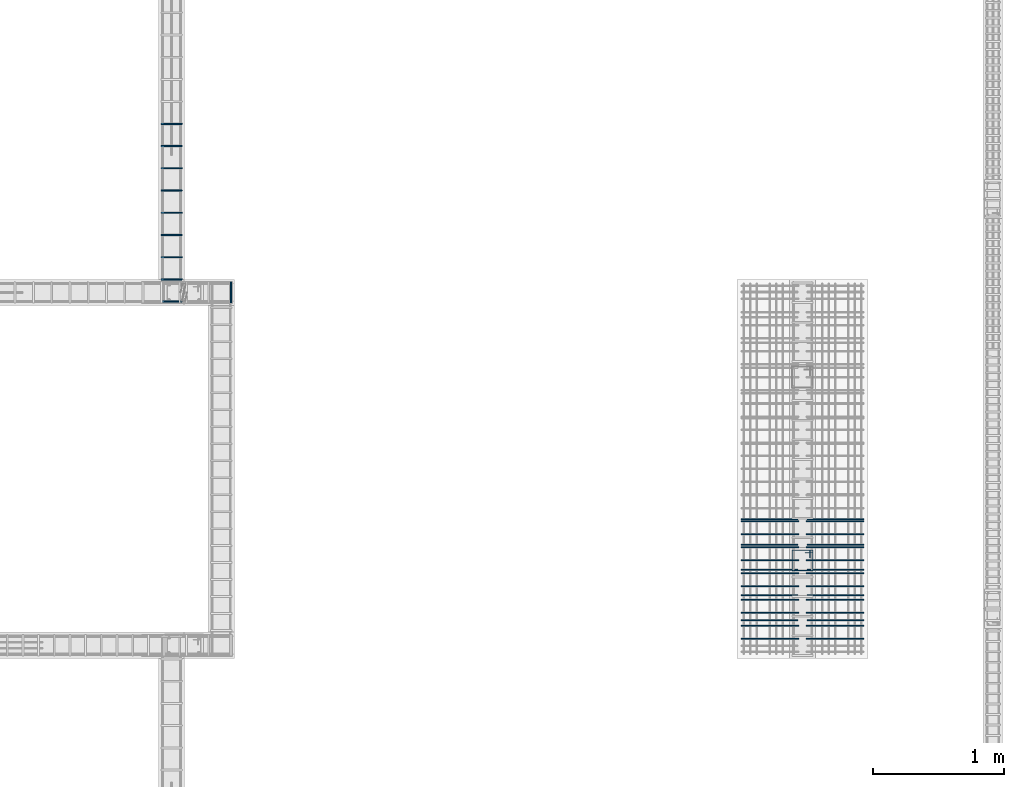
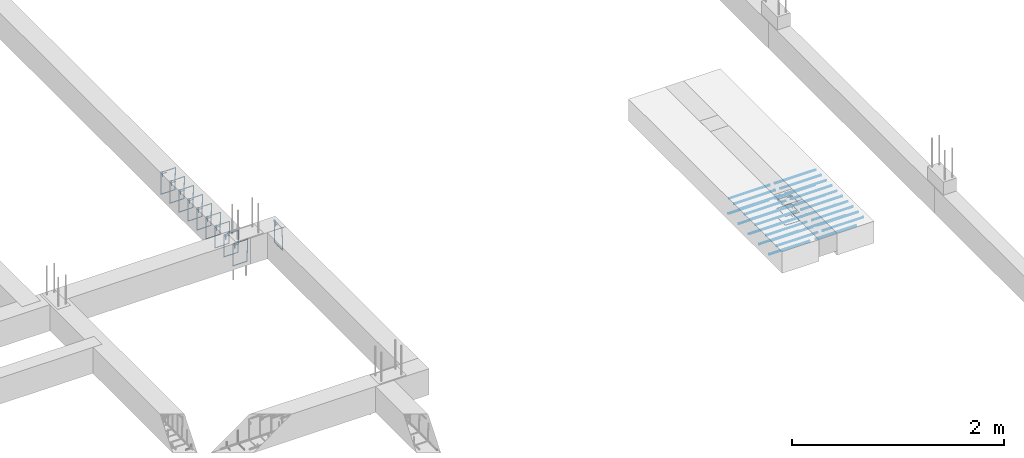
# One storey, part 142 of 150: 43 reinforcing bars.
"""IFC4 building model written with IfcOpenShell, lengths in centimetres."""

from ifc_helpers import new_model, entity, si_unit, derived_unit, frame, origin_with_axes, place, context, project, spatial, source, transform, mapped, element, save


model = new_model("IFC4")

# Units and contexts
model_context = context("Model", 3, precision=1e-05, world=origin_with_axes(), identifier="Body")
ifc_project = project(units=[si_unit("LENGTHUNIT", "METRE", prefix="CENTI"), si_unit("VOLUMEUNIT", "CUBIC_METRE"), si_unit("AREAUNIT", "SQUARE_METRE"), si_unit("POWERUNIT", "WATT"), si_unit("LUMINOUSFLUXUNIT", "LUMEN"), si_unit("ELECTRICCURRENTUNIT", "AMPERE"), si_unit("PRESSUREUNIT", "PASCAL", prefix="KILO"), si_unit("MASSUNIT", "GRAM", prefix="KILO"), si_unit("PLANEANGLEUNIT", "RADIAN"), derived_unit("VOLUMETRICFLOWRATEUNIT", [(si_unit("LENGTHUNIT", "METRE"), 3), (si_unit("TIMEUNIT", "SECOND"), -1)])], contexts=[model_context])

# Site, building, storey
site_placement = place(None, frame((-4000.0, 0.0, 0.0), z_axis=(0.0, 0.0, 1.0), x_axis=(1.0, 0.0, 0.0)))
site = spatial("IfcSite", under=ifc_project, at=site_placement, Name="PADRÃO")
building_placement = place(site_placement, frame((0.0, 0.0, -14.0)))
building = spatial("IfcBuilding", under=site, at=building_placement, Name="CRECHE PRÉ-ESCOLA TIPO 2")
placement = place(building_placement, origin_with_axes())
storey_placement = place(placement, frame((0.0, 0.0, 30.0), z_axis=(0.0, 0.0, 1.0), x_axis=(1.0, 0.0, 0.0)))
storey = spatial("IfcBuildingStorey", under=building, at=storey_placement, Name="VIGA BALDRAME", CompositionType="ELEMENT", Elevation=16.0)

# Reinforcing bars
shared_shape_1 = source(origin_with_axes(), model_context, "Body", "AdvancedSweptSolid", [
    entity("IfcSweptDiskSolid", entity("IfcCompositeCurve", [entity("IfcCompositeCurveSegment", "CONTINUOUS", True, entity("IfcPolyline", [entity("IfcCartesianPoint", [4.25, 11.75, 0.0]), entity("IfcCartesianPoint", [4.25, 17.75, 0.0])])), entity("IfcCompositeCurveSegment", "CONTINUOUS", True, entity("IfcPolyline", [entity("IfcCartesianPoint", [4.25, 17.75, 0.0]), entity("IfcCartesianPoint", [2.25, 17.75, 0.0])])), entity("IfcCompositeCurveSegment", "CONTINUOUS", True, entity("IfcPolyline", [entity("IfcCartesianPoint", [2.25, 17.75, 0.0]), entity("IfcCartesianPoint", [2.25, 2.25, 0.0])])), entity("IfcCompositeCurveSegment", "CONTINUOUS", True, entity("IfcPolyline", [entity("IfcCartesianPoint", [2.25, 2.25, 0.0]), entity("IfcCartesianPoint", [17.75, 2.25, 0.0])])), entity("IfcCompositeCurveSegment", "CONTINUOUS", True, entity("IfcPolyline", [entity("IfcCartesianPoint", [17.75, 2.25, 0.0]), entity("IfcCartesianPoint", [17.75, 17.75, -0.5])])), entity("IfcCompositeCurveSegment", "CONTINUOUS", True, entity("IfcPolyline", [entity("IfcCartesianPoint", [17.75, 17.75, -0.5]), entity("IfcCartesianPoint", [2.25, 17.75, -0.5])])), entity("IfcCompositeCurveSegment", "CONTINUOUS", True, entity("IfcPolyline", [entity("IfcCartesianPoint", [2.25, 17.75, -0.5]), entity("IfcCartesianPoint", [2.25, 15.75, -0.5])])), entity("IfcCompositeCurveSegment", "CONTINUOUS", True, entity("IfcPolyline", [entity("IfcCartesianPoint", [2.25, 15.75, -0.5]), entity("IfcCartesianPoint", [8.25, 15.75, -0.5])]))], False), 0.25),
])
for number, where, z_axis, x_axis, name in (
    (1, (3835.84, 3275.02, -5.0), (0.0, 0.0, 1.0), (0.0, -1.0, 0.0), "PM2 - Estribo"),
    (2, (3835.84, 3275.02, -25.0), (0.0, 0.0, 1.0), (0.0, -1.0, 0.0), "PM2 - Estribo"),
    (3, (3835.84, 3275.02, -15.0), (0.0, 0.0, 1.0), (0.0, -1.0, 0.0), "PM2 - Estribo"),
):
    element("IfcReinforcingBar", number, at=place(storey_placement, frame(where, z_axis=z_axis, x_axis=x_axis)), inside=storey, Name=name, BarLength=0.0, CrossSectionArea=1.9634954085e-05, NominalDiameter=0.5, PredefinedType="MAIN", context=model_context, shape_type="MappedRepresentation", body=[
        mapped(shared_shape_1, transform((0.0, 0.0, 0.0), scale=1.0)),
    ])
shared_shape_2 = source(origin_with_axes(), model_context, "Body", "AdvancedSweptSolid", [
    entity("IfcSweptDiskSolid", entity("IfcCompositeCurve", [entity("IfcCompositeCurveSegment", "CONTINUOUS", True, entity("IfcPolyline", [entity("IfcCartesianPoint", [2.0, -6.0, 0.0]), entity("IfcCartesianPoint", [2.0, 0.0, 0.0])])), entity("IfcCompositeCurveSegment", "CONTINUOUS", True, entity("IfcPolyline", [entity("IfcCartesianPoint", [2.0, 0.0, 0.0]), entity("IfcCartesianPoint", [0.0, 0.0, 0.0])])), entity("IfcCompositeCurveSegment", "CONTINUOUS", True, entity("IfcPolyline", [entity("IfcCartesianPoint", [0.0, 0.0, 0.0]), entity("IfcCartesianPoint", [0.0, -25.5, 0.0])])), entity("IfcCompositeCurveSegment", "CONTINUOUS", True, entity("IfcPolyline", [entity("IfcCartesianPoint", [0.0, -25.5, 0.0]), entity("IfcCartesianPoint", [15.5, -25.5, 0.0])])), entity("IfcCompositeCurveSegment", "CONTINUOUS", True, entity("IfcPolyline", [entity("IfcCartesianPoint", [15.5, -25.5, 0.0]), entity("IfcCartesianPoint", [15.5, 0.0, 0.5])])), entity("IfcCompositeCurveSegment", "CONTINUOUS", True, entity("IfcPolyline", [entity("IfcCartesianPoint", [15.5, 0.0, 0.5]), entity("IfcCartesianPoint", [0.0, 0.0, 0.5])])), entity("IfcCompositeCurveSegment", "CONTINUOUS", True, entity("IfcPolyline", [entity("IfcCartesianPoint", [0.0, 0.0, 0.5]), entity("IfcCartesianPoint", [0.0, -2.0, 0.5])])), entity("IfcCompositeCurveSegment", "CONTINUOUS", True, entity("IfcPolyline", [entity("IfcCartesianPoint", [0.0, -2.0, 0.5]), entity("IfcCartesianPoint", [6.0, -2.0, 0.5])]))], False), 0.25),
])
reinforcing_bar_placement = place(storey_placement, frame((3408.74, 3477.76, -2.25), z_axis=(-1.0, 0.0, 0.0), x_axis=(0.0, -1.0, 0.0)))
element("IfcReinforcingBar", 4, at=reinforcing_bar_placement, inside=storey, Name="V111 - Estribo", BarLength=0.0, CrossSectionArea=1.9634954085e-05, NominalDiameter=0.5, PredefinedType="MAIN", context=model_context, shape_type="MappedRepresentation", body=[
    mapped(shared_shape_2, transform((0.0, 0.0, 0.0), scale=1.0)),
])
shared_shape_3 = source(origin_with_axes(), model_context, "Body", "AdvancedSweptSolid", [
    entity("IfcSweptDiskSolid", entity("IfcCompositeCurve", [entity("IfcCompositeCurveSegment", "CONTINUOUS", True, entity("IfcPolyline", [entity("IfcCartesianPoint", [2.0, -6.0, 0.0]), entity("IfcCartesianPoint", [2.0, 0.0, 0.0])])), entity("IfcCompositeCurveSegment", "CONTINUOUS", True, entity("IfcPolyline", [entity("IfcCartesianPoint", [2.0, 0.0, 0.0]), entity("IfcCartesianPoint", [0.0, 0.0, 0.0])])), entity("IfcCompositeCurveSegment", "CONTINUOUS", True, entity("IfcPolyline", [entity("IfcCartesianPoint", [0.0, 0.0, 0.0]), entity("IfcCartesianPoint", [0.0, -25.5, 0.0])])), entity("IfcCompositeCurveSegment", "CONTINUOUS", True, entity("IfcPolyline", [entity("IfcCartesianPoint", [0.0, -25.5, 0.0]), entity("IfcCartesianPoint", [15.5, -25.5, 0.0])])), entity("IfcCompositeCurveSegment", "CONTINUOUS", True, entity("IfcPolyline", [entity("IfcCartesianPoint", [15.5, -25.5, 0.0]), entity("IfcCartesianPoint", [15.5, 0.0, 0.5])])), entity("IfcCompositeCurveSegment", "CONTINUOUS", True, entity("IfcPolyline", [entity("IfcCartesianPoint", [15.5, 0.0, 0.5]), entity("IfcCartesianPoint", [0.0, 0.0, 0.5])])), entity("IfcCompositeCurveSegment", "CONTINUOUS", True, entity("IfcPolyline", [entity("IfcCartesianPoint", [0.0, 0.0, 0.5]), entity("IfcCartesianPoint", [0.0, -2.0, 0.5])])), entity("IfcCompositeCurveSegment", "CONTINUOUS", True, entity("IfcPolyline", [entity("IfcCartesianPoint", [0.0, -2.0, 0.5]), entity("IfcCartesianPoint", [6.0, -2.0, 0.5])]))], False), 0.25),
])
for number, where, z_axis, x_axis, name in (
    (5, (3355.25, 3582.265, -2.25), (0.0, -1.0, 0.0), (1.0, 0.0, 0.0), "V229 - Estribo"),
    (6, (3355.25, 3599.265, -2.25), (0.0, -1.0, 0.0), (1.0, 0.0, 0.0), "V229 - Estribo"),
    (7, (3355.25, 3565.265, -2.25), (0.0, -1.0, 0.0), (1.0, 0.0, 0.0), "V229 - Estribo"),
    (8, (3355.25, 3548.265, -2.25), (0.0, -1.0, 0.0), (1.0, 0.0, 0.0), "V229 - Estribo"),
    (9, (3355.25, 3531.265, -2.25), (0.0, -1.0, 0.0), (1.0, 0.0, 0.0), "V229 - Estribo"),
    (10, (3355.25, 3514.265, -2.25), (0.0, -1.0, 0.0), (1.0, 0.0, 0.0), "V229 - Estribo"),
    (11, (3355.25, 3497.265, -2.25), (0.0, -1.0, 0.0), (1.0, 0.0, 0.0), "V229 - Estribo"),
    (12, (3355.25, 3480.265, -2.25), (0.0, -1.0, 0.0), (1.0, 0.0, 0.0), "V229 - Estribo"),
    (13, (3355.25, 3463.265, -2.25), (0.0, -1.0, 0.0), (1.0, 0.0, 0.0), "V229 - Estribo"),
):
    element("IfcReinforcingBar", number, at=place(storey_placement, frame(where, z_axis=z_axis, x_axis=x_axis)), inside=storey, Name=name, BarLength=0.0, CrossSectionArea=1.9634954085e-05, NominalDiameter=0.5, PredefinedType="MAIN", context=model_context, shape_type="MappedRepresentation", body=[
        mapped(shared_shape_3, transform((0.0, 0.0, 0.0), scale=1.0)),
    ])
for number, where, z_axis, x_axis, name in (
    (14, (3820.545, 3238.35333333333, -21.2), (0.0, 0.0, 1.0), (1.0, 0.0, 0.0), "LM1 - Inferior X"),
    (15, (3820.545, 3257.68666666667, -21.2), (0.0, 0.0, 1.0), (1.0, 0.0, 0.0), "LM1 - Inferior X"),
    (16, (3820.545, 3277.02, -21.2), (0.0, 0.0, 1.0), (1.0, 0.0, 0.0), "LM1 - Inferior X"),
    (17, (3820.545, 3296.35333333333, -21.2), (0.0, 0.0, 1.0), (1.0, 0.0, 0.0), "LM1 - Inferior X"),
    (18, (3820.545, 3219.02, -21.2), (0.0, 0.0, 1.0), (1.0, 0.0, 0.0), "LM1 - Inferior X"),
):
    element("IfcReinforcingBar", number, at=place(storey_placement, frame(where, z_axis=z_axis, x_axis=x_axis)), inside=storey, Name=name, BarLength=0.0, CrossSectionArea=5.0265482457e-05, NominalDiameter=0.8, PredefinedType="MAIN", context=model_context, shape_type="AdvancedSweptSolid", body=[
        entity("IfcSweptDiskSolid", entity("IfcCompositeCurve", [entity("IfcCompositeCurveSegment", "CONTINUOUS", True, entity("IfcPolyline", [entity("IfcCartesianPoint", [-21.695, 0.0, -0.4]), entity("IfcCartesianPoint", [21.695, 0.0, -0.4])]))], False), 0.4),
    ])
for number, where, z_axis, x_axis, name in (
    (19, (3820.84, 3255.02, -3.0), (0.0, 0.0, 1.0), (1.0, 0.0, 0.0), "LM1 - Superior X"),
    (20, (3820.84, 3265.02, -3.0), (0.0, 0.0, 1.0), (1.0, 0.0, 0.0), "LM1 - Superior X"),
    (21, (3820.84, 3275.02, -3.0), (0.0, 0.0, 1.0), (1.0, 0.0, 0.0), "LM1 - Superior X"),
    (22, (3820.84, 3285.02, -3.0), (0.0, 0.0, 1.0), (1.0, 0.0, 0.0), "LM1 - Superior X"),
    (23, (3820.84, 3295.02, -3.0), (0.0, 0.0, 1.0), (1.0, 0.0, 0.0), "LM1 - Superior X"),
    (24, (3820.84, 3205.02, -3.0), (0.0, 0.0, 1.0), (1.0, 0.0, 0.0), "LM1 - Superior X"),
    (25, (3820.84, 3215.02, -3.0), (0.0, 0.0, 1.0), (1.0, 0.0, 0.0), "LM1 - Superior X"),
    (26, (3820.84, 3225.02, -3.0), (0.0, 0.0, 1.0), (1.0, 0.0, 0.0), "LM1 - Superior X"),
    (27, (3820.84, 3235.02, -3.0), (0.0, 0.0, 1.0), (1.0, 0.0, 0.0), "LM1 - Superior X"),
    (28, (3820.84, 3245.02, -3.0), (0.0, 0.0, 1.0), (1.0, 0.0, 0.0), "LM1 - Superior X"),
):
    element("IfcReinforcingBar", number, at=place(storey_placement, frame(where, z_axis=z_axis, x_axis=x_axis)), inside=storey, Name=name, BarLength=0.0, CrossSectionArea=5.0265482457e-05, NominalDiameter=0.8, PredefinedType="MAIN", context=model_context, shape_type="AdvancedSweptSolid", body=[
        entity("IfcSweptDiskSolid", entity("IfcCompositeCurve", [entity("IfcCompositeCurveSegment", "CONTINUOUS", True, entity("IfcPolyline", [entity("IfcCartesianPoint", [-22.0, 0.0, -0.4]), entity("IfcCartesianPoint", [22.0, 0.0, -0.4])]))], False), 0.4),
    ])
for number, where, z_axis, x_axis, name in (
    (29, (3871.145, 3296.35333333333, -21.2), (0.0, 0.0, 1.0), (1.0, 0.0, 0.0), "LM2 - Inferior X"),
    (30, (3871.145, 3277.02, -21.2), (0.0, 0.0, 1.0), (1.0, 0.0, 0.0), "LM2 - Inferior X"),
    (31, (3871.145, 3257.68666666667, -21.2), (0.0, 0.0, 1.0), (1.0, 0.0, 0.0), "LM2 - Inferior X"),
    (32, (3871.145, 3238.35333333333, -21.2), (0.0, 0.0, 1.0), (1.0, 0.0, 0.0), "LM2 - Inferior X"),
    (33, (3871.145, 3219.02, -21.2), (0.0, 0.0, 1.0), (1.0, 0.0, 0.0), "LM2 - Inferior X"),
):
    element("IfcReinforcingBar", number, at=place(storey_placement, frame(where, z_axis=z_axis, x_axis=x_axis)), inside=storey, Name=name, BarLength=0.0, CrossSectionArea=5.0265482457e-05, NominalDiameter=0.8, PredefinedType="MAIN", context=model_context, shape_type="AdvancedSweptSolid", body=[
        entity("IfcSweptDiskSolid", entity("IfcCompositeCurve", [entity("IfcCompositeCurveSegment", "CONTINUOUS", True, entity("IfcPolyline", [entity("IfcCartesianPoint", [-21.695, 0.0, -0.4]), entity("IfcCartesianPoint", [21.695, 0.0, -0.4])]))], False), 0.4),
    ])
for number, where, z_axis, x_axis, name in (
    (34, (3870.84, 3215.02, -3.0), (0.0, 0.0, 1.0), (1.0, 0.0, 0.0), "LM2 - Superior X"),
    (35, (3870.84, 3205.02, -3.0), (0.0, 0.0, 1.0), (1.0, 0.0, 0.0), "LM2 - Superior X"),
    (36, (3870.84, 3295.02, -3.0), (0.0, 0.0, 1.0), (1.0, 0.0, 0.0), "LM2 - Superior X"),
    (37, (3870.84, 3285.02, -3.0), (0.0, 0.0, 1.0), (1.0, 0.0, 0.0), "LM2 - Superior X"),
    (38, (3870.84, 3275.02, -3.0), (0.0, 0.0, 1.0), (1.0, 0.0, 0.0), "LM2 - Superior X"),
    (39, (3870.84, 3265.02, -3.0), (0.0, 0.0, 1.0), (1.0, 0.0, 0.0), "LM2 - Superior X"),
    (40, (3870.84, 3255.02, -3.0), (0.0, 0.0, 1.0), (1.0, 0.0, 0.0), "LM2 - Superior X"),
    (41, (3870.84, 3245.02, -3.0), (0.0, 0.0, 1.0), (1.0, 0.0, 0.0), "LM2 - Superior X"),
    (42, (3870.84, 3235.02, -3.0), (0.0, 0.0, 1.0), (1.0, 0.0, 0.0), "LM2 - Superior X"),
    (43, (3870.84, 3225.02, -3.0), (0.0, 0.0, 1.0), (1.0, 0.0, 0.0), "LM2 - Superior X"),
):
    element("IfcReinforcingBar", number, at=place(storey_placement, frame(where, z_axis=z_axis, x_axis=x_axis)), inside=storey, Name=name, BarLength=0.0, CrossSectionArea=5.0265482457e-05, NominalDiameter=0.8, PredefinedType="MAIN", context=model_context, shape_type="AdvancedSweptSolid", body=[
        entity("IfcSweptDiskSolid", entity("IfcCompositeCurve", [entity("IfcCompositeCurveSegment", "CONTINUOUS", True, entity("IfcPolyline", [entity("IfcCartesianPoint", [-22.0, 0.0, -0.4]), entity("IfcCartesianPoint", [22.0, 0.0, -0.4])]))], False), 0.4),
    ])

save(model, "model.ifc")
